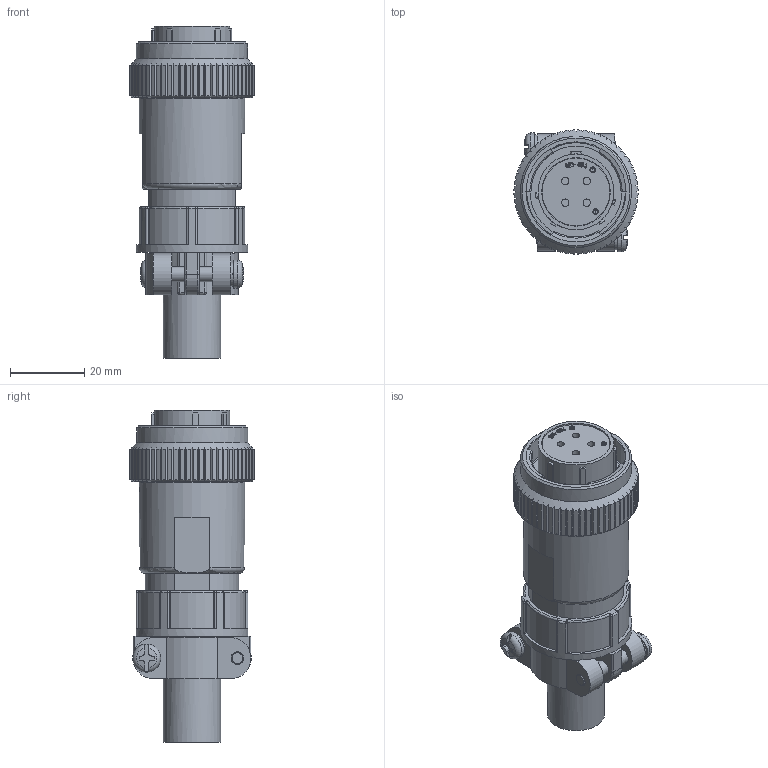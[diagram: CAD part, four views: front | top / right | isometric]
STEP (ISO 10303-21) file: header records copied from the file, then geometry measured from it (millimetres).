
FILE_DESCRIPTION (( 'STEP AP203' ), '1' );
FILE_NAME ('WEBSP2104F-1-D(R1).STEP', '2021-07-29T08:53:02', ( '' ), ( '' ), 'SwSTEP 2.0', 'SolidWorks 2018', '' );
FILE_SCHEMA (( 'CONFIG_CONTROL_DESIGN' ));
Length unit declared in the file: millimetre
Products named in the file (1): WEBSP2104F-1-D(R1)
Bounding box: 33.49 x 33.49 x 89.58 mm (x, y, z)
Volume: 31327.7 mm3; surface area: 21195.4 mm2
Topology: 1 solids, 1 shells, 804 faces, 2156 edges, 1398 vertices
Faces by surface type: plane 435, cylinder 203, bspline 102, torus 23, cone 21, sphere 20
Full cylindrical faces by diameter (mm): 1.2 x3, 1.4 x1, 1.5 x2, 1.7 x4, 2 x4, 2.4 x4, 2.8 x2, 3.4 x2, 4.1 x2, 4.3 x4, 7.6 x2, 14.1 x2, 15.46 x1, 15.8 x1, 16.22 x1, 17 x1, 18.3 x1, 18.5 x1, 20.1 x1, 20.45 x1, 20.5 x1, 23.85 x1, 24.8 x1, 26 x1, 26.6 x1, 28.4 x1, 30.2 x1
Entity records: 29287 total; most frequent: CARTESIAN_POINT 10590, ORIENTED_EDGE 4068, DIRECTION 3416, EDGE_CURVE 2034, VERTEX_POINT 1362, AXIS2_PLACEMENT_3D 1202, LINE 1012, VECTOR 1012
